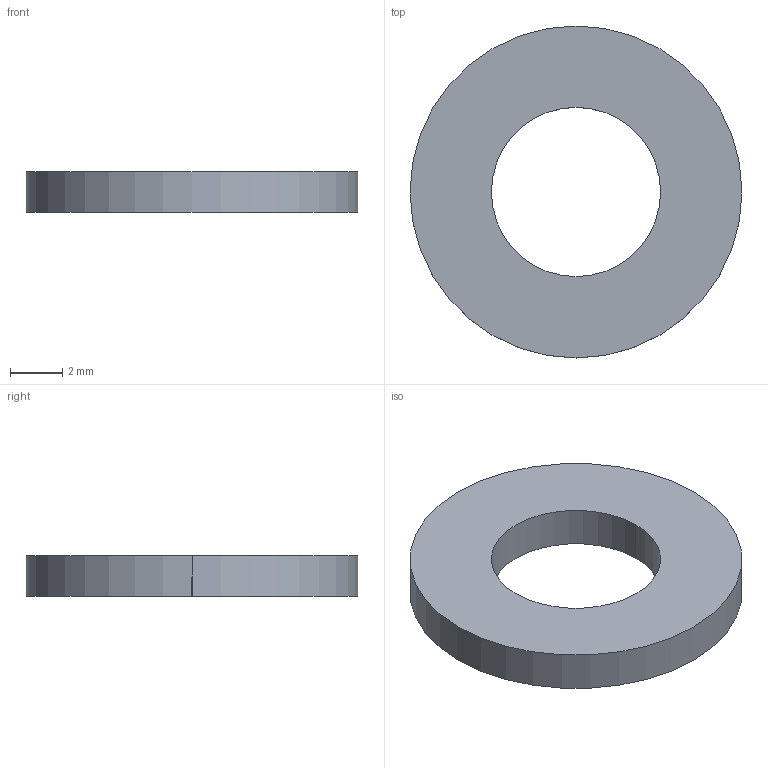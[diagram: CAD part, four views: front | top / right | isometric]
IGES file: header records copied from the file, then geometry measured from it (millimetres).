
Global section: file name: C:\Documents and Settings\Administrator\Desktop\Transfer Temp\tbb-4-8.igs; native system: AutoDesk Inventor R2.0 ; preprocessor: AutoDesk Inventor Iges Exporter R2.0; author: No Author specified; organization: No Organization specified; date: 20011230.161617; units: inch
Bounding box: 12.7 x 12.7 x 1.56 mm (x, y, z)
Surface area: 281.6 mm2 (no closed solid volume)
Topology: 0 solids, 0 shells, 6 faces, 24 edges, 24 vertices
Faces by surface type: revolution 4, bspline 2
